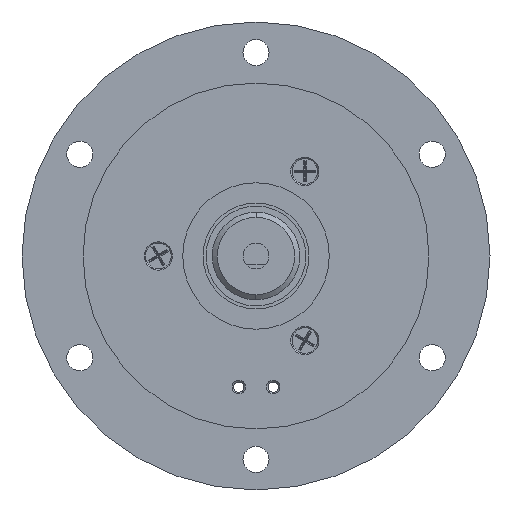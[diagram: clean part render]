
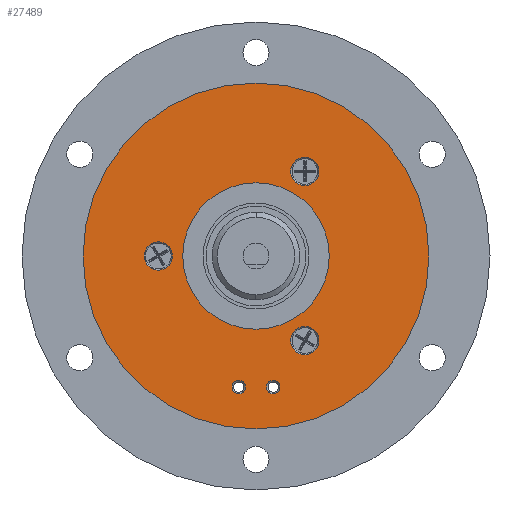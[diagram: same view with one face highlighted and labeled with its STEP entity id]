
A CAD part, left-side view. The second image highlights one B-rep face of the part: STEP entity #27489.
In plain terms, the highlighted planar face has unit normal (-1, 0, 0).
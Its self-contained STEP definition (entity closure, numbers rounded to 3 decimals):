
#185 = EDGE_CURVE ( 'NONE', #29900, #2477, #14956, .T. ) ;
#601 = AXIS2_PLACEMENT_3D ( 'NONE', #4903, #46372, #9061 ) ;
#945 = DIRECTION ( 'NONE',  ( 0., -0.5, -0.866 ) ) ;
#1453 = ORIENTED_EDGE ( 'NONE', *, *, #9978, .F. ) ;
#1702 = CARTESIAN_POINT ( 'NONE',  ( -3.572, 16.423, -15.588 ) ) ;
#1999 = FACE_BOUND ( 'NONE', #25335, .T. ) ;
#2182 = EDGE_LOOP ( 'NONE', ( #26530, #28564 ) ) ;
#2226 = ORIENTED_EDGE ( 'NONE', *, *, #44281, .F. ) ;
#2235 = EDGE_LOOP ( 'NONE', ( #42282, #23588 ) ) ;
#2477 = VERTEX_POINT ( 'NONE', #26681 ) ;
#2724 = DIRECTION ( 'NONE',  ( -1., 0., 0. ) ) ;
#2789 = EDGE_CURVE ( 'NONE', #9115, #14630, #36315, .T. ) ;
#2914 = EDGE_CURVE ( 'NONE', #9957, #13455, #12810, .T. ) ;
#3100 = CIRCLE ( 'NONE', #43180, 1.65 ) ;
#3877 = CARTESIAN_POINT ( 'NONE',  ( -3.572, 25.423, 0. ) ) ;
#4085 = CARTESIAN_POINT ( 'NONE',  ( -3.572, 46.673, 36.806 ) ) ;
#4353 = DIRECTION ( 'NONE',  ( 1., 0., 0. ) ) ;
#4395 = CIRCLE ( 'NONE', #10668, 3.47 ) ;
#4431 = DIRECTION ( 'NONE',  ( -1., 0., 0. ) ) ;
#4574 = CIRCLE ( 'NONE', #31976, 42.5 ) ;
#4903 = CARTESIAN_POINT ( 'NONE',  ( -3.572, 21.181, -32.222 ) ) ;
#5122 = VERTEX_POINT ( 'NONE', #32267 ) ;
#5303 = EDGE_CURVE ( 'NONE', #14630, #9115, #31871, .T. ) ;
#5432 = DIRECTION ( 'NONE',  ( 0., -0.5, -0.866 ) ) ;
#5921 = VERTEX_POINT ( 'NONE', #14163 ) ;
#6467 = DIRECTION ( 'NONE',  ( -1., 0., 0. ) ) ;
#6808 = EDGE_LOOP ( 'NONE', ( #1453, #28439 ) ) ;
#6900 = DIRECTION ( 'NONE',  ( -1., 0., 0. ) ) ;
#7566 = CARTESIAN_POINT ( 'NONE',  ( -3.572, 28.84, -33.651 ) ) ;
#8110 = AXIS2_PLACEMENT_3D ( 'NONE', #47534, #13904, #25180 ) ;
#8296 = CIRCLE ( 'NONE', #45102, 1.65 ) ;
#8440 = DIRECTION ( 'NONE',  ( -1., 0., 0. ) ) ;
#8821 = EDGE_LOOP ( 'NONE', ( #32319, #11697 ) ) ;
#8956 = EDGE_CURVE ( 'NONE', #47551, #46737, #3100, .T. ) ;
#9061 = DIRECTION ( 'NONE',  ( 0., 0.5, 0.866 ) ) ;
#9115 = VERTEX_POINT ( 'NONE', #14853 ) ;
#9352 = FACE_BOUND ( 'NONE', #28496, .T. ) ;
#9775 = CIRCLE ( 'NONE', #41112, 42.5 ) ;
#9957 = VERTEX_POINT ( 'NONE', #14737 ) ;
#9978 = EDGE_CURVE ( 'NONE', #5921, #19507, #21076, .T. ) ;
#10599 = VERTEX_POINT ( 'NONE', #31080 ) ;
#10668 = AXIS2_PLACEMENT_3D ( 'NONE', #19368, #15702, #30632 ) ;
#10943 = CIRCLE ( 'NONE', #19535, 18. ) ;
#11697 = ORIENTED_EDGE ( 'NONE', *, *, #23549, .T. ) ;
#11905 = AXIS2_PLACEMENT_3D ( 'NONE', #3877, #30316, #945 ) ;
#12196 = CARTESIAN_POINT ( 'NONE',  ( -3.572, 25.423, 0. ) ) ;
#12591 = CARTESIAN_POINT ( 'NONE',  ( -3.572, 30.49, -30.793 ) ) ;
#12810 = CIRCLE ( 'NONE', #38681, 3.47 ) ;
#13058 = DIRECTION ( 'NONE',  ( 1., 0., 0. ) ) ;
#13455 = VERTEX_POINT ( 'NONE', #45150 ) ;
#13507 = DIRECTION ( 'NONE',  ( 0., 0.5, 0.866 ) ) ;
#13769 = CARTESIAN_POINT ( 'NONE',  ( -3.572, 20.356, -33.651 ) ) ;
#13904 = DIRECTION ( 'NONE',  ( -1., 0., 0. ) ) ;
#14163 = CARTESIAN_POINT ( 'NONE',  ( -3.572, 22.006, -30.793 ) ) ;
#14630 = VERTEX_POINT ( 'NONE', #46703 ) ;
#14737 = CARTESIAN_POINT ( 'NONE',  ( -3.572, 11.688, -23.79 ) ) ;
#14806 = AXIS2_PLACEMENT_3D ( 'NONE', #44459, #6900, #33893 ) ;
#14853 = CARTESIAN_POINT ( 'NONE',  ( -3.572, 47.688, -3.005 ) ) ;
#14956 = CIRCLE ( 'NONE', #42428, 3.47 ) ;
#15702 = DIRECTION ( 'NONE',  ( -1., 0., 0. ) ) ;
#17252 = CARTESIAN_POINT ( 'NONE',  ( -3.572, 13.423, -20.785 ) ) ;
#17763 = VERTEX_POINT ( 'NONE', #4085 ) ;
#17837 = EDGE_LOOP ( 'NONE', ( #2226, #30282 ) ) ;
#18410 = ORIENTED_EDGE ( 'NONE', *, *, #40500, .F. ) ;
#18487 = EDGE_CURVE ( 'NONE', #5122, #17763, #9775, .T. ) ;
#18886 = DIRECTION ( 'NONE',  ( 0., 0.5, 0.866 ) ) ;
#19368 = CARTESIAN_POINT ( 'NONE',  ( -3.572, 13.423, -20.785 ) ) ;
#19507 = VERTEX_POINT ( 'NONE', #13769 ) ;
#19535 = AXIS2_PLACEMENT_3D ( 'NONE', #26069, #33947, #44998 ) ;
#19787 = DIRECTION ( 'NONE',  ( 0., -0.5, -0.866 ) ) ;
#21076 = CIRCLE ( 'NONE', #14806, 1.65 ) ;
#21522 = ORIENTED_EDGE ( 'NONE', *, *, #5303, .F. ) ;
#23549 = EDGE_CURVE ( 'NONE', #10599, #39293, #33839, .T. ) ;
#23588 = ORIENTED_EDGE ( 'NONE', *, *, #47851, .F. ) ;
#23854 = DIRECTION ( 'NONE',  ( 0., 0.5, 0.866 ) ) ;
#25180 = DIRECTION ( 'NONE',  ( 0., 0.5, 0.866 ) ) ;
#25335 = EDGE_LOOP ( 'NONE', ( #39074, #18410 ) ) ;
#25394 = DIRECTION ( 'NONE',  ( 0., 0.5, 0.866 ) ) ;
#26048 = DIRECTION ( 'NONE',  ( -1., 0., 0. ) ) ;
#26069 = CARTESIAN_POINT ( 'NONE',  ( -3.572, 25.423, 0. ) ) ;
#26530 = ORIENTED_EDGE ( 'NONE', *, *, #8956, .F. ) ;
#26681 = CARTESIAN_POINT ( 'NONE',  ( -3.572, 11.688, 17.78 ) ) ;
#27489 = ADVANCED_FACE ( 'NONE', ( #32383, #31400, #9352, #1999, #36095, #31650, #42729 ), #46418, .F. ) ;
#27505 = ORIENTED_EDGE ( 'NONE', *, *, #2789, .F. ) ;
#27963 = DIRECTION ( 'NONE',  ( 1., 0., 0. ) ) ;
#28439 = ORIENTED_EDGE ( 'NONE', *, *, #32017, .F. ) ;
#28496 = EDGE_LOOP ( 'NONE', ( #21522, #27505 ) ) ;
#28505 = AXIS2_PLACEMENT_3D ( 'NONE', #31890, #27963, #5432 ) ;
#28564 = ORIENTED_EDGE ( 'NONE', *, *, #28765, .F. ) ;
#28765 = EDGE_CURVE ( 'NONE', #46737, #47551, #8296, .T. ) ;
#29058 = CARTESIAN_POINT ( 'NONE',  ( -3.572, 13.423, 20.785 ) ) ;
#29900 = VERTEX_POINT ( 'NONE', #40056 ) ;
#30282 = ORIENTED_EDGE ( 'NONE', *, *, #2914, .F. ) ;
#30316 = DIRECTION ( 'NONE',  ( 1., 0., 0. ) ) ;
#30441 = CARTESIAN_POINT ( 'NONE',  ( -3.572, 29.665, -32.222 ) ) ;
#30632 = DIRECTION ( 'NONE',  ( 0., 0.5, 0.866 ) ) ;
#31080 = CARTESIAN_POINT ( 'NONE',  ( -3.572, 34.423, 15.588 ) ) ;
#31400 = FACE_BOUND ( 'NONE', #6808, .T. ) ;
#31650 = FACE_OUTER_BOUND ( 'NONE', #2235, .T. ) ;
#31871 = CIRCLE ( 'NONE', #46024, 3.47 ) ;
#31890 = CARTESIAN_POINT ( 'NONE',  ( -3.572, 62.229, -21.25 ) ) ;
#31976 = AXIS2_PLACEMENT_3D ( 'NONE', #46691, #13058, #43005 ) ;
#32017 = EDGE_CURVE ( 'NONE', #19507, #5921, #42907, .T. ) ;
#32196 = AXIS2_PLACEMENT_3D ( 'NONE', #43461, #2724, #13507 ) ;
#32267 = CARTESIAN_POINT ( 'NONE',  ( -3.572, 4.173, -36.806 ) ) ;
#32319 = ORIENTED_EDGE ( 'NONE', *, *, #38756, .T. ) ;
#32383 = FACE_BOUND ( 'NONE', #2182, .T. ) ;
#32944 = DIRECTION ( 'NONE',  ( 0., 0.5, 0.866 ) ) ;
#33839 = CIRCLE ( 'NONE', #11905, 18. ) ;
#33893 = DIRECTION ( 'NONE',  ( 0., 0.5, 0.866 ) ) ;
#33947 = DIRECTION ( 'NONE',  ( 1., 0., 0. ) ) ;
#36095 = FACE_BOUND ( 'NONE', #17837, .T. ) ;
#36315 = CIRCLE ( 'NONE', #8110, 3.47 ) ;
#38049 = CARTESIAN_POINT ( 'NONE',  ( -3.572, 29.665, -32.222 ) ) ;
#38492 = CIRCLE ( 'NONE', #32196, 3.47 ) ;
#38681 = AXIS2_PLACEMENT_3D ( 'NONE', #17252, #6467, #32944 ) ;
#38756 = EDGE_CURVE ( 'NONE', #39293, #10599, #10943, .T. ) ;
#39074 = ORIENTED_EDGE ( 'NONE', *, *, #185, .F. ) ;
#39293 = VERTEX_POINT ( 'NONE', #1702 ) ;
#40056 = CARTESIAN_POINT ( 'NONE',  ( -3.572, 15.158, 23.79 ) ) ;
#40500 = EDGE_CURVE ( 'NONE', #2477, #29900, #38492, .T. ) ;
#41112 = AXIS2_PLACEMENT_3D ( 'NONE', #12196, #4353, #19787 ) ;
#42050 = CARTESIAN_POINT ( 'NONE',  ( -3.572, 49.423, 0. ) ) ;
#42282 = ORIENTED_EDGE ( 'NONE', *, *, #18487, .F. ) ;
#42428 = AXIS2_PLACEMENT_3D ( 'NONE', #29058, #44076, #25394 ) ;
#42729 = FACE_BOUND ( 'NONE', #8821, .T. ) ;
#42907 = CIRCLE ( 'NONE', #601, 1.65 ) ;
#43005 = DIRECTION ( 'NONE',  ( 0., -0.5, -0.866 ) ) ;
#43180 = AXIS2_PLACEMENT_3D ( 'NONE', #38049, #4431, #18886 ) ;
#43461 = CARTESIAN_POINT ( 'NONE',  ( -3.572, 13.423, 20.785 ) ) ;
#44076 = DIRECTION ( 'NONE',  ( -1., 0., 0. ) ) ;
#44281 = EDGE_CURVE ( 'NONE', #13455, #9957, #4395, .T. ) ;
#44459 = CARTESIAN_POINT ( 'NONE',  ( -3.572, 21.181, -32.222 ) ) ;
#44998 = DIRECTION ( 'NONE',  ( 0., -0.5, -0.866 ) ) ;
#45102 = AXIS2_PLACEMENT_3D ( 'NONE', #30441, #26048, #45712 ) ;
#45150 = CARTESIAN_POINT ( 'NONE',  ( -3.572, 15.158, -17.78 ) ) ;
#45712 = DIRECTION ( 'NONE',  ( 0., 0.5, 0.866 ) ) ;
#46024 = AXIS2_PLACEMENT_3D ( 'NONE', #42050, #8440, #23854 ) ;
#46372 = DIRECTION ( 'NONE',  ( -1., 0., 0. ) ) ;
#46418 = PLANE ( 'NONE',  #28505 ) ;
#46691 = CARTESIAN_POINT ( 'NONE',  ( -3.572, 25.423, 0. ) ) ;
#46703 = CARTESIAN_POINT ( 'NONE',  ( -3.572, 51.158, 3.005 ) ) ;
#46737 = VERTEX_POINT ( 'NONE', #7566 ) ;
#47534 = CARTESIAN_POINT ( 'NONE',  ( -3.572, 49.423, 0. ) ) ;
#47551 = VERTEX_POINT ( 'NONE', #12591 ) ;
#47851 = EDGE_CURVE ( 'NONE', #17763, #5122, #4574, .T. ) ;
